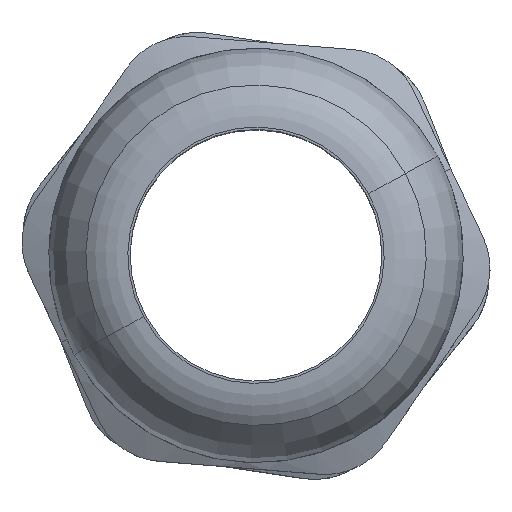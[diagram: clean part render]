
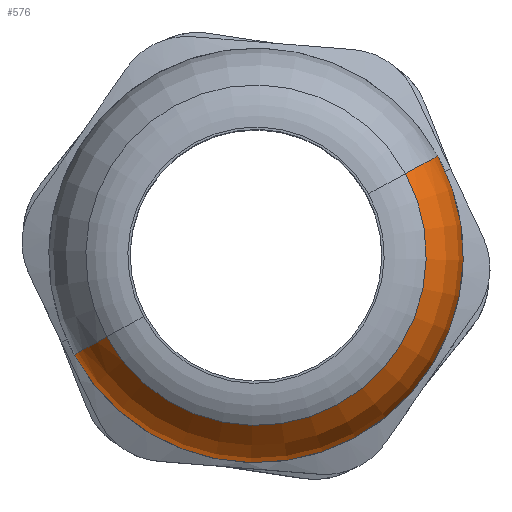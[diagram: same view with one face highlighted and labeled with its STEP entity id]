
A CAD part, top view. The second image highlights one B-rep face of the part: STEP entity #576.
In plain terms, the highlighted toroidal (fillet/blend) face has major radius 5.6 mm and minor radius 5.1 mm.
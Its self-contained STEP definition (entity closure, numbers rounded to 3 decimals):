
#268=CARTESIAN_POINT('Vertex',(-7.716,-4.215,28.936)) ;
#275=CARTESIAN_POINT('Vertex',(7.716,4.215,28.936)) ;
#290=CARTESIAN_POINT('Axis2P3D Location',(0.,0.,28.936)) ;
#534=CARTESIAN_POINT('Axis2P3D Location',(0.,0.,24.959)) ;
#539=CARTESIAN_POINT('Axis2P3D Location',(-4.914,-2.685,24.959)) ;
#543=CARTESIAN_POINT('Vertex',(-9.39,-5.13,24.959)) ;
#546=CARTESIAN_POINT('Axis2P3D Location',(4.914,2.685,24.959)) ;
#550=CARTESIAN_POINT('Vertex',(9.39,5.13,24.959)) ;
#565=CARTESIAN_POINT('Axis2P3D Location',(0.,0.,24.959)) ;
#291=DIRECTION('Axis2P3D Direction',(0.,0.,1.)) ;
#535=DIRECTION('Axis2P3D Direction',(0.,0.,1.)) ;
#536=DIRECTION('Axis2P3D XDirection',(-0.878,-0.479,0.)) ;
#540=DIRECTION('Axis2P3D Direction',(-0.479,0.878,0.)) ;
#547=DIRECTION('Axis2P3D Direction',(0.479,-0.878,0.)) ;
#566=DIRECTION('Axis2P3D Direction',(0.,0.,1.)) ;
#292=AXIS2_PLACEMENT_3D('Circle Axis2P3D',#290,#291,$) ;
#537=AXIS2_PLACEMENT_3D('Torus Axis2P3D',#534,#535,#536) ;
#541=AXIS2_PLACEMENT_3D('Circle Axis2P3D',#539,#540,$) ;
#548=AXIS2_PLACEMENT_3D('Circle Axis2P3D',#546,#547,$) ;
#567=AXIS2_PLACEMENT_3D('Circle Axis2P3D',#565,#566,$) ;
#571=ORIENTED_EDGE('',*,*,#552,.T.) ;
#572=ORIENTED_EDGE('',*,*,#294,.F.) ;
#573=ORIENTED_EDGE('',*,*,#545,.F.) ;
#574=ORIENTED_EDGE('',*,*,#569,.T.) ;
#576=ADVANCED_FACE('11111111111111111',(#575),#538,.T.) ;
#293=CIRCLE('generated circle',#292,8.792) ;
#542=CIRCLE('generated circle',#541,5.1) ;
#549=CIRCLE('generated circle',#548,5.1) ;
#568=CIRCLE('generated circle',#567,10.7) ;
#538=TOROIDAL_SURFACE('homeo Torus',#537,5.6,5.1) ;
#294=EDGE_CURVE('',#269,#276,#293,.T.) ;
#545=EDGE_CURVE('',#544,#269,#542,.T.) ;
#552=EDGE_CURVE('',#551,#276,#549,.T.) ;
#569=EDGE_CURVE('',#544,#551,#568,.T.) ;
#570=EDGE_LOOP('',(#571,#572,#573,#574)) ;
#575=FACE_OUTER_BOUND('',#570,.T.) ;
#269=VERTEX_POINT('',#268) ;
#276=VERTEX_POINT('',#275) ;
#544=VERTEX_POINT('',#543) ;
#551=VERTEX_POINT('',#550) ;
